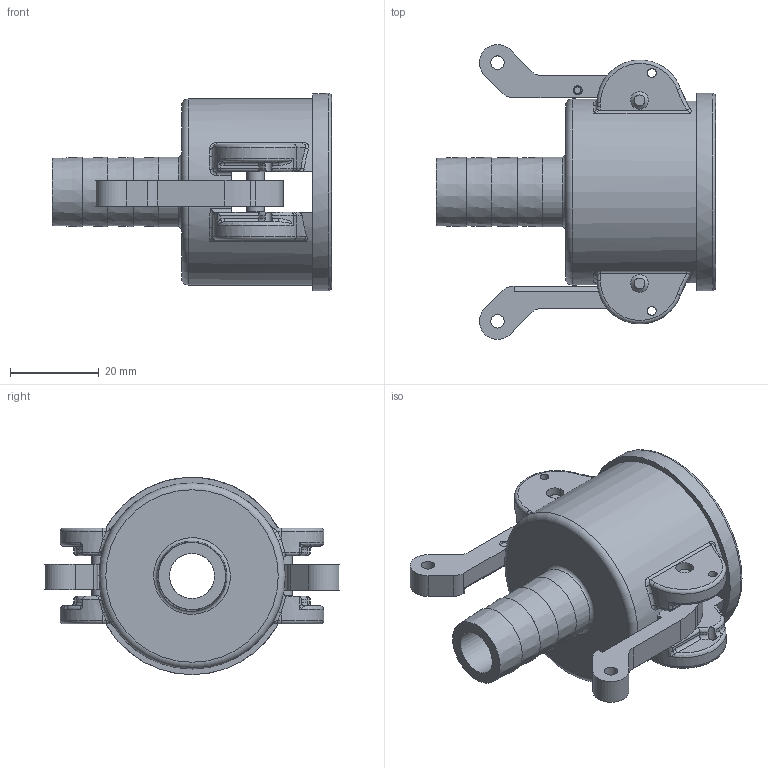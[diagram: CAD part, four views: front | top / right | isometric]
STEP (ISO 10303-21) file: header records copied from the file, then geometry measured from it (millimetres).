
FILE_DESCRIPTION(/* description */ ('Alibre Inc.'),/* implementation_level */ '2;1');
FILE_NAME(/* name */ 'export0',/* time_stamp */ '2016-01-28T16:47:34-05:00',/* author */ (''),/* organization */ (''),/* preprocessor_version */ 'ST-DEVELOPER v14',/* originating_system */ 'Alibre',/* authorisation */ '');
FILE_SCHEMA (('CONFIG_CONTROL_DESIGN'));
Length unit declared in the file: centimetre
Products named in the file (5): ID_1; ID_2
Bounding box: 62.87 x 66.36 x 44.45 mm (x, y, z)
Volume: 33614.1 mm3; surface area: 19992.2 mm2
Topology: 6 solids, 6 shells, 225 faces, 573 edges, 356 vertices
Faces by surface type: cylinder 72, plane 70, torus 42, bspline 32, cone 8, sphere 1
Full cylindrical faces by diameter (mm): 1.981 x4, 3.048 x2, 3.962 x6, 4.216 x2, 4.242 x2, 10.16 x1, 15.748 x1, 22.352 x1, 32.512 x1, 35.052 x1, 35.814 x1, 41.91 x1, 44.45 x1
Entity records: 11320 total; most frequent: CARTESIAN_POINT 6571, ORIENTED_EDGE 922, DIRECTION 731, EDGE_CURVE 461, AXIS2_PLACEMENT_3D 341, VERTEX_POINT 301, EDGE_LOOP 254, FACE_BOUND 254
